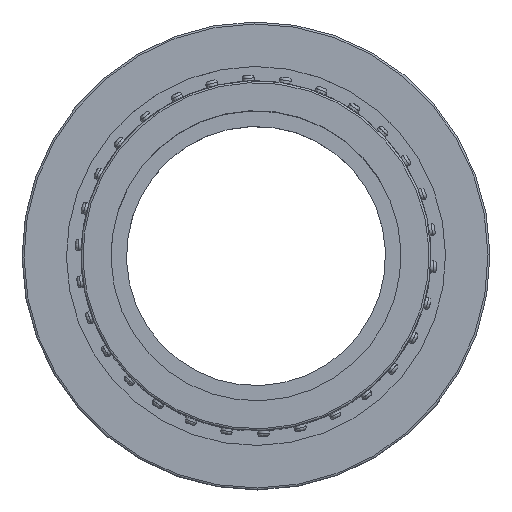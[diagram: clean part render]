
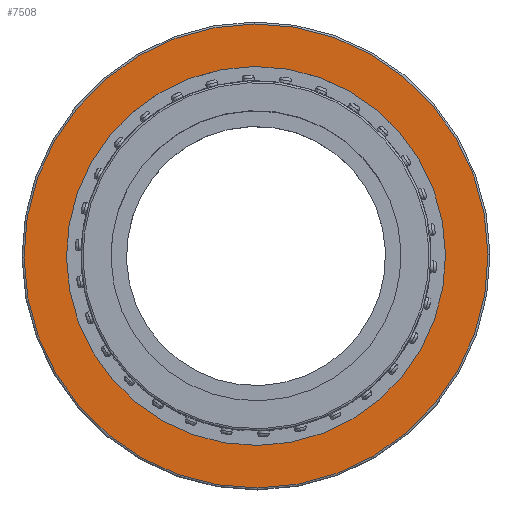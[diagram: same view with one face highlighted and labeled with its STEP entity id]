
A CAD part, top view. The second image highlights one B-rep face of the part: STEP entity #7508.
In plain terms, the highlighted planar face has unit normal (0, 0, 1).
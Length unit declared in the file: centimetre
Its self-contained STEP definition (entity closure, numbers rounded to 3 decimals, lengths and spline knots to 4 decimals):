
#1435=FACE_BOUND('',#2237,.T.);
#1823=FACE_OUTER_BOUND('',#2236,.T.);
#2236=EDGE_LOOP('',(#6596));
#2237=EDGE_LOOP('',(#6597));
#2656=CIRCLE('',#8225,6.);
#2657=CIRCLE('',#8226,4.9);
#3372=VERTEX_POINT('',#15332);
#3373=VERTEX_POINT('',#15334);
#4448=EDGE_CURVE('',#3372,#3372,#2656,.T.);
#4449=EDGE_CURVE('',#3373,#3373,#2657,.T.);
#6596=ORIENTED_EDGE('',*,*,#4448,.F.);
#6597=ORIENTED_EDGE('',*,*,#4449,.T.);
#6733=PLANE('',#8224);
#7508=ADVANCED_FACE('',(#1823,#1435),#6733,.T.);
#8224=AXIS2_PLACEMENT_3D('',#15331,#10129,#10130);
#8225=AXIS2_PLACEMENT_3D('',#15333,#10131,#10132);
#8226=AXIS2_PLACEMENT_3D('',#15335,#10133,#10134);
#10129=DIRECTION('center_axis',(0.,0.,
1.));
#10130=DIRECTION('ref_axis',(-0.493,-0.87,0.));
#10131=DIRECTION('center_axis',(0.,0.,
-1.));
#10132=DIRECTION('ref_axis',(0.87,-0.493,0.));
#10133=DIRECTION('center_axis',(0.,0.,
-1.));
#10134=DIRECTION('ref_axis',(0.87,-0.493,0.));
#15331=CARTESIAN_POINT('Origin',(-5.262,2.9855,2.68));
#15332=CARTESIAN_POINT('',(-5.2186,2.9609,2.68));
#15333=CARTESIAN_POINT('Origin',(0.,0.,
2.68));
#15334=CARTESIAN_POINT('',(-4.2618,2.418,2.68));
#15335=CARTESIAN_POINT('Origin',(0.,0.,
2.68));
